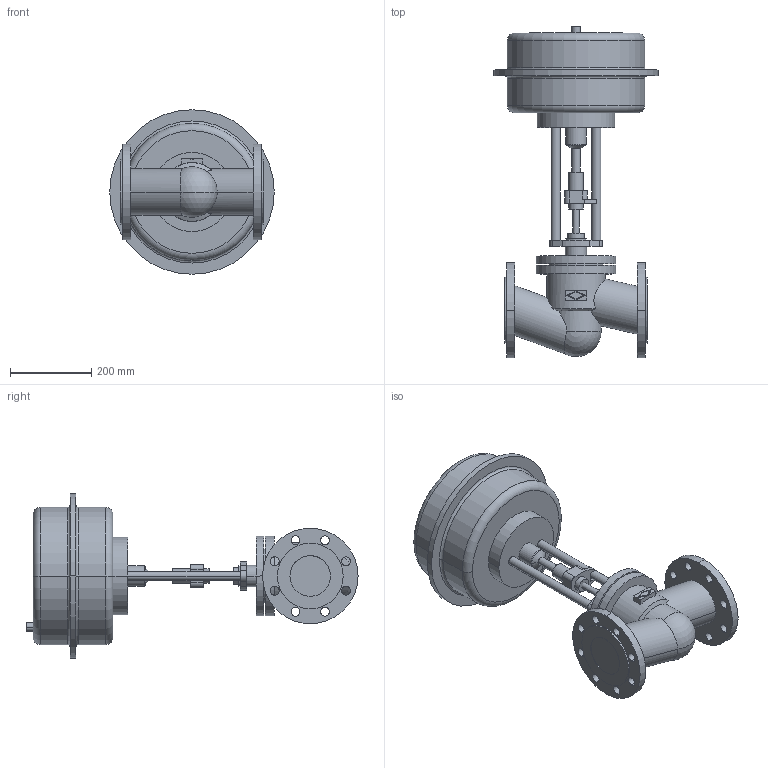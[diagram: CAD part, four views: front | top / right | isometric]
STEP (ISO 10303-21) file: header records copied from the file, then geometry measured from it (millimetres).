
FILE_DESCRIPTION(('OneSpaceDesigner STEP Export'),'2;1');
FILE_NAME('c000001497.stp','2005-02-15T 9:36:22',(''),(''),'OneSpace Designer STEP processor (Jan. 2003) for AP203(Solid Model)','OneSpace Designer 12.01D 09-Jul-2004 (C) CoCreate Software GmbH','');
FILE_SCHEMA(('CONFIG_CONTROL_DESIGN'));
Length unit declared in the file: millimetre
Products named in the file (2): 1; 2
Bounding box: 405 x 817.5 x 405 mm (x, y, z)
Volume: 27430239.4 mm3; surface area: 999254.9 mm2
Topology: 2 solids, 2 shells, 172 faces, 415 edges, 272 vertices
Faces by surface type: cylinder 96, plane 60, torus 10, cone 4, sphere 2
Entity records: 4868 total; most frequent: CARTESIAN_POINT 1013, ORIENTED_EDGE 826, DIRECTION 669, EDGE_CURVE 413, VERTEX_POINT 272, AXIS2_PLACEMENT_3D 245, EDGE_LOOP 231, VECTOR 179
